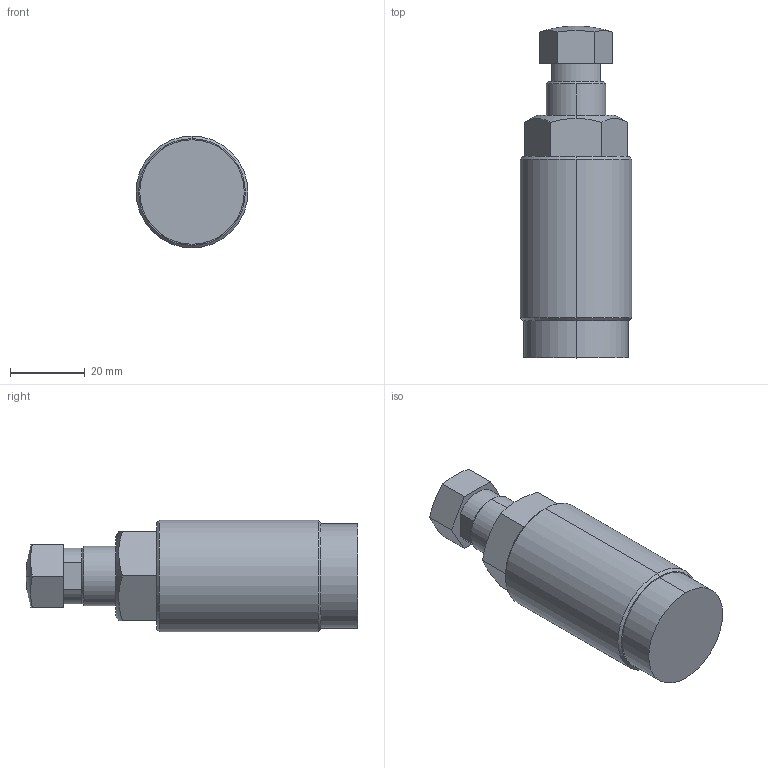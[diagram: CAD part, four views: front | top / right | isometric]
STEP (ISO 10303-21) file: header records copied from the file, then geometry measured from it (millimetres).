
FILE_DESCRIPTION (( 'STEP AP214' ), '1' );
FILE_NAME ('SP-16A2.STEP', '2021-10-19T00:33:17', ( '' ), ( '' ), 'SwSTEP 2.0', 'SolidWorks 2016', '' );
FILE_SCHEMA (( 'AUTOMOTIVE_DESIGN' ));
Length unit declared in the file: millimetre
Products named in the file (1): SP-16A2
Bounding box: 30 x 89 x 30 mm (x, y, z)
Volume: 46730.3 mm3; surface area: 9047.9 mm2
Topology: 1 solids, 2 shells, 45 faces, 100 edges, 61 vertices
Faces by surface type: plane 22, cylinder 11, cone 10, sphere 2
Entity records: 1355 total; most frequent: CARTESIAN_POINT 273, DIRECTION 221, ORIENTED_EDGE 196, EDGE_CURVE 98, AXIS2_PLACEMENT_3D 85, VERTEX_POINT 61, VECTOR 51, LINE 51
